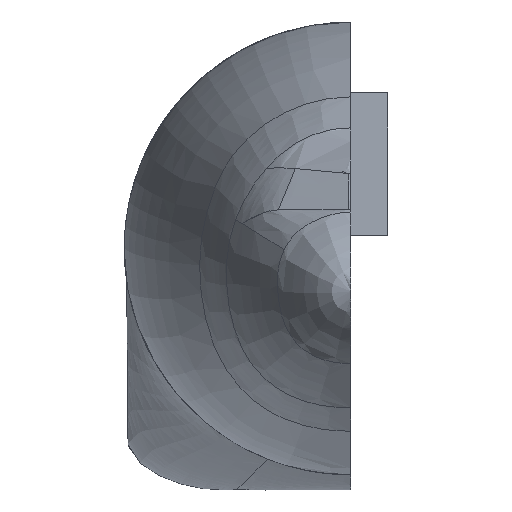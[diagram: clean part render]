
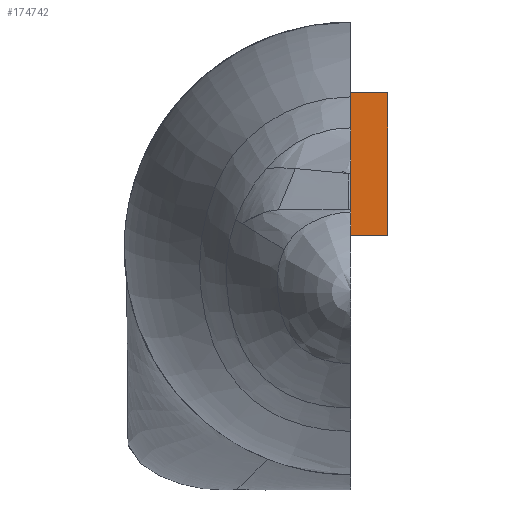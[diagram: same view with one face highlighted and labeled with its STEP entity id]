
A CAD part, left-side view. The second image highlights one B-rep face of the part: STEP entity #174742.
In plain terms, the highlighted planar face has unit normal (1, 0, 0).
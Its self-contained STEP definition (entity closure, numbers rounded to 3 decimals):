
#174703=CARTESIAN_POINT('Axis2P3D Location',(2562.,0.,0.)) ;
#174708=CARTESIAN_POINT('Line Origine',(2562.,-20.,266.5)) ;
#174712=CARTESIAN_POINT('Vertex',(2562.,-20.,305.)) ;
#174714=CARTESIAN_POINT('Vertex',(2562.,-20.,228.)) ;
#174717=CARTESIAN_POINT('Line Origine',(2562.,0.,228.)) ;
#174721=CARTESIAN_POINT('Vertex',(2562.,20.,228.)) ;
#174724=CARTESIAN_POINT('Line Origine',(2562.,20.,266.5)) ;
#174728=CARTESIAN_POINT('Vertex',(2562.,20.,305.)) ;
#174731=CARTESIAN_POINT('Line Origine',(2562.,0.,305.)) ;
#174704=DIRECTION('Axis2P3D Direction',(1.,0.,0.)) ;
#174705=DIRECTION('Axis2P3D XDirection',(0.,1.,0.)) ;
#174709=DIRECTION('Vector Direction',(0.,0.,-1.)) ;
#174718=DIRECTION('Vector Direction',(0.,-1.,0.)) ;
#174725=DIRECTION('Vector Direction',(0.,0.,1.)) ;
#174732=DIRECTION('Vector Direction',(0.,1.,0.)) ;
#174706=AXIS2_PLACEMENT_3D('Plane Axis2P3D',#174703,#174704,#174705) ;
#174737=ORIENTED_EDGE('',*,*,#174716,.T.) ;
#174738=ORIENTED_EDGE('',*,*,#174723,.T.) ;
#174739=ORIENTED_EDGE('',*,*,#174730,.T.) ;
#174740=ORIENTED_EDGE('',*,*,#174735,.T.) ;
#174710=VECTOR('Line Direction',#174709,0.039) ;
#174719=VECTOR('Line Direction',#174718,0.039) ;
#174726=VECTOR('Line Direction',#174725,0.039) ;
#174733=VECTOR('Line Direction',#174732,0.039) ;
#174742=ADVANCED_FACE('BODY_AFTTRIM',(#174741),#174707,.T.) ;
#174716=EDGE_CURVE('',#174713,#174715,#174711,.T.) ;
#174723=EDGE_CURVE('',#174715,#174722,#174720,.F.) ;
#174730=EDGE_CURVE('',#174722,#174729,#174727,.T.) ;
#174735=EDGE_CURVE('',#174729,#174713,#174734,.F.) ;
#174736=EDGE_LOOP('',(#174737,#174738,#174739,#174740)) ;
#174741=FACE_OUTER_BOUND('',#174736,.T.) ;
#174711=LINE('Line',#174708,#174710) ;
#174720=LINE('Line',#174717,#174719) ;
#174727=LINE('Line',#174724,#174726) ;
#174734=LINE('Line',#174731,#174733) ;
#174707=PLANE('',#174706) ;
#174713=VERTEX_POINT('',#174712) ;
#174715=VERTEX_POINT('',#174714) ;
#174722=VERTEX_POINT('',#174721) ;
#174729=VERTEX_POINT('',#174728) ;
